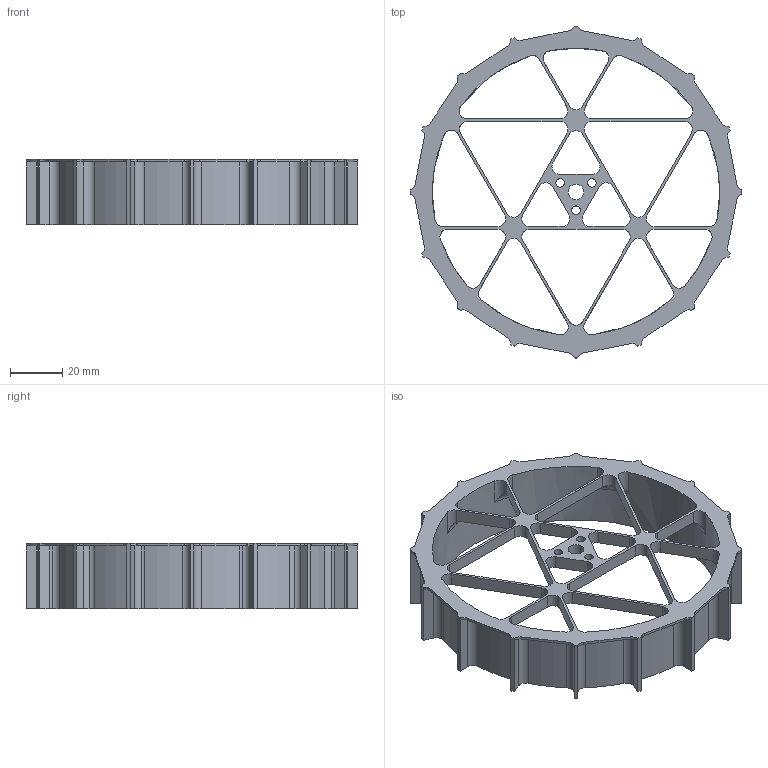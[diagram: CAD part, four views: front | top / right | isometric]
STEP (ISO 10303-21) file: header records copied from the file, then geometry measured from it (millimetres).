
FILE_DESCRIPTION (( 'STEP AP214' ), '1' );
FILE_NAME ('Uus_pikihammastega_ratas_lühemate_hammastega.STEP', '2025-05-19T11:57:56', ( '' ), ( '' ), 'SwSTEP 2.0', 'SolidWorks 2024', '' );
FILE_SCHEMA (( 'AUTOMOTIVE_DESIGN' ));
Length unit declared in the file: millimetre
Products named in the file (1): Uus_pikihammastega_ratas_lühemate_hammastega
Bounding box: 127 x 127 x 25 mm (x, y, z)
Volume: 25707.1 mm3; surface area: 34444 mm2
Topology: 1 solids, 1 shells, 296 faces, 877 edges, 572 vertices
Faces by surface type: cylinder 178, plane 103, torus 12, bspline 3
Entity records: 10631 total; most frequent: CARTESIAN_POINT 2363, DIRECTION 1799, ORIENTED_EDGE 1754, EDGE_CURVE 877, AXIS2_PLACEMENT_3D 672, VERTEX_POINT 572, LINE 455, VECTOR 455
